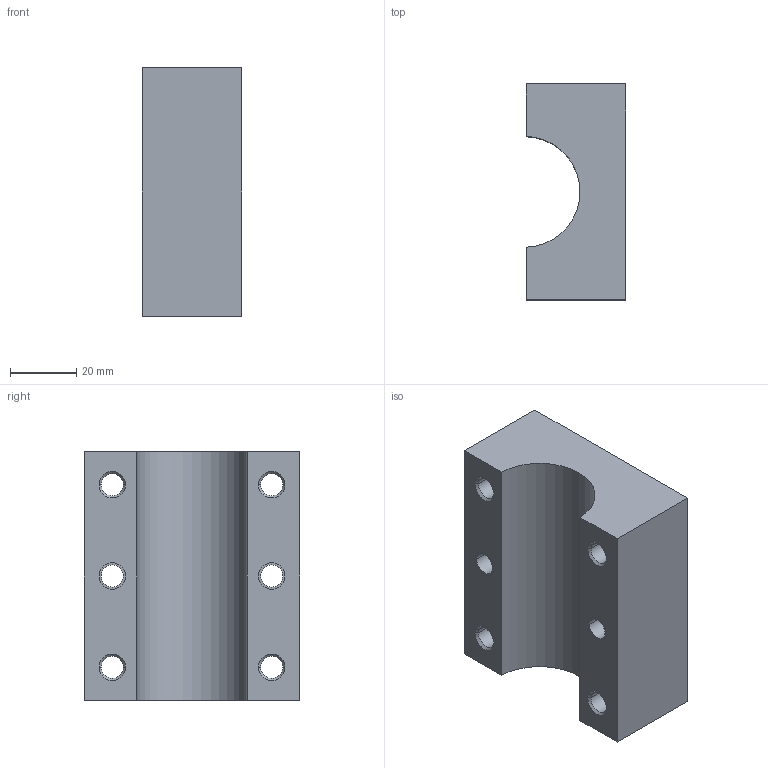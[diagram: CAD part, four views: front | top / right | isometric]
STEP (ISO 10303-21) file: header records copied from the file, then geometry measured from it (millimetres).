
FILE_DESCRIPTION(/* description */ ('VariCAD 2010-3.03 AP-214'),/* implementation_level */ '2;1');
FILE_NAME(/* name */ '0353-22-10',/* time_stamp */ '2011-06-28T19:09:01-06:00',/* author */ (''),/* organization */ (''),/* preprocessor_version */ 'ST-DEVELOPER v12',/* originating_system */ 'VariCAD 2010-3.03; kernel version (20100102)',/* authorisation */ '');
FILE_SCHEMA (('AUTOMOTIVE_DESIGN'));
Length unit declared in the file: millimetre
Products named in the file (1): Part
Bounding box: 30 x 65 x 75 mm (x, y, z)
Volume: 108369.6 mm3; surface area: 31007.3 mm2
Topology: 7 solids, 7 shells, 62 faces, 138 edges, 84 vertices
Faces by surface type: cylinder 37, plane 13, cone 12
Entity records: 2301 total; most frequent: DIRECTION 352, CARTESIAN_POINT 292, ORIENTED_EDGE 276, AXIS2_PLACEMENT_3D 144, EDGE_CURVE 138, VERTEX_POINT 84, EDGE_LOOP 80, CIRCLE 74
